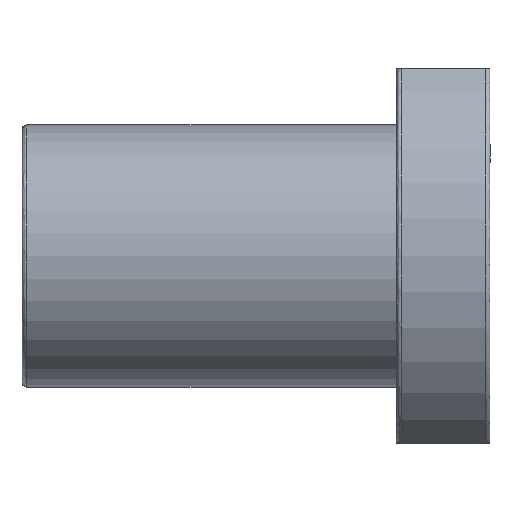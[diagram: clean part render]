
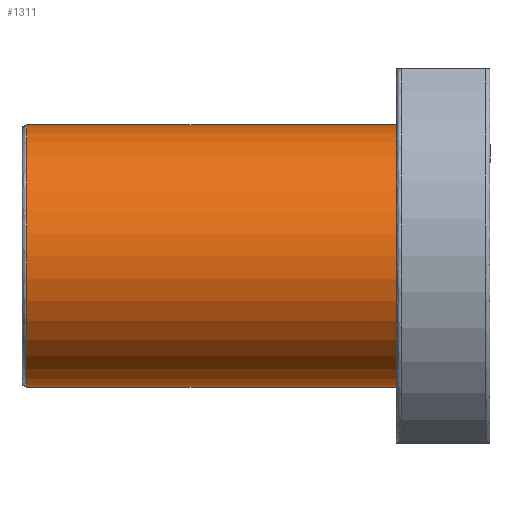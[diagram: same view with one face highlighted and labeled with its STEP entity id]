
A CAD part, top view. The second image highlights one B-rep face of the part: STEP entity #1311.
In plain terms, the highlighted cylindrical face has radius 14 mm (diameter 28 mm), a partial arc.
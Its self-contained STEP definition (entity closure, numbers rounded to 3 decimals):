
#36 = CARTESIAN_POINT ( 'NONE',  ( -64.5, 14., 0. ) ) ;
#80 = VECTOR ( 'NONE', #515, 1000. ) ;
#81 = DIRECTION ( 'NONE',  ( 0., 1., 0. ) ) ;
#103 = AXIS2_PLACEMENT_3D ( 'NONE', #931, #1335, #162 ) ;
#136 = AXIS2_PLACEMENT_3D ( 'NONE', #981, #1386, #81 ) ;
#162 = DIRECTION ( 'NONE',  ( 0., 1., 0. ) ) ;
#178 = CYLINDRICAL_SURFACE ( 'NONE', #103, 14. ) ;
#233 = EDGE_CURVE ( 'NONE', #1663, #1065, #1716, .T. ) ;
#273 = EDGE_LOOP ( 'NONE', ( #1489, #685, #1002, #1435 ) ) ;
#396 = CARTESIAN_POINT ( 'NONE',  ( -64.5, 14., 0. ) ) ;
#476 = DIRECTION ( 'NONE',  ( 1., 0., 0. ) ) ;
#515 = DIRECTION ( 'NONE',  ( 1., 0., 0. ) ) ;
#571 = DIRECTION ( 'NONE',  ( 1., 0., 0. ) ) ;
#576 = CARTESIAN_POINT ( 'NONE',  ( -64.5, -14., 0. ) ) ;
#660 = FACE_OUTER_BOUND ( 'NONE', #273, .T. ) ;
#685 = ORIENTED_EDGE ( 'NONE', *, *, #1683, .T. ) ;
#706 = LINE ( 'NONE', #1099, #1627 ) ;
#731 = CARTESIAN_POINT ( 'NONE',  ( -64.5, 0., 0. ) ) ;
#734 = EDGE_CURVE ( 'NONE', #1663, #801, #1538, .T. ) ;
#777 = AXIS2_PLACEMENT_3D ( 'NONE', #731, #476, #1645 ) ;
#801 = VERTEX_POINT ( 'NONE', #576 ) ;
#812 = VERTEX_POINT ( 'NONE', #1128 ) ;
#931 = CARTESIAN_POINT ( 'NONE',  ( -64.5, 0., 0. ) ) ;
#979 = EDGE_CURVE ( 'NONE', #812, #1065, #1403, .T. ) ;
#981 = CARTESIAN_POINT ( 'NONE',  ( -25., 0., 0. ) ) ;
#1002 = ORIENTED_EDGE ( 'NONE', *, *, #979, .T. ) ;
#1065 = VERTEX_POINT ( 'NONE', #1707 ) ;
#1099 = CARTESIAN_POINT ( 'NONE',  ( -64.5, -14., 0. ) ) ;
#1128 = CARTESIAN_POINT ( 'NONE',  ( -25., -14., 0. ) ) ;
#1311 = ADVANCED_FACE ( 'NONE', ( #660 ), #178, .T. ) ;
#1335 = DIRECTION ( 'NONE',  ( 1., 0., 0. ) ) ;
#1386 = DIRECTION ( 'NONE',  ( -1., 0., 0. ) ) ;
#1403 = CIRCLE ( 'NONE', #136, 14. ) ;
#1435 = ORIENTED_EDGE ( 'NONE', *, *, #233, .F. ) ;
#1489 = ORIENTED_EDGE ( 'NONE', *, *, #734, .T. ) ;
#1538 = CIRCLE ( 'NONE', #777, 14. ) ;
#1627 = VECTOR ( 'NONE', #571, 1000. ) ;
#1645 = DIRECTION ( 'NONE',  ( 0., 1., 0. ) ) ;
#1663 = VERTEX_POINT ( 'NONE', #36 ) ;
#1683 = EDGE_CURVE ( 'NONE', #801, #812, #706, .T. ) ;
#1707 = CARTESIAN_POINT ( 'NONE',  ( -25., 14., 0. ) ) ;
#1716 = LINE ( 'NONE', #396, #80 ) ;
